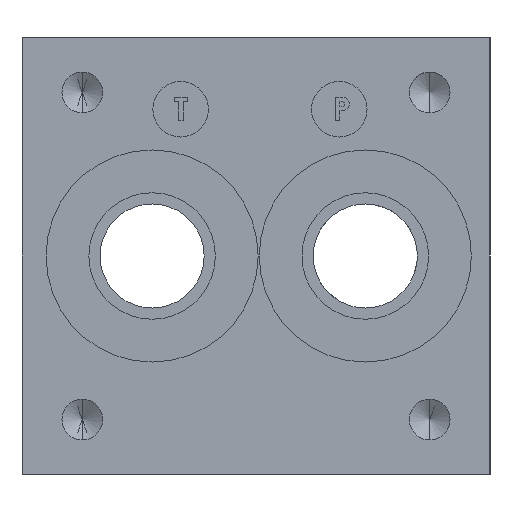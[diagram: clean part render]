
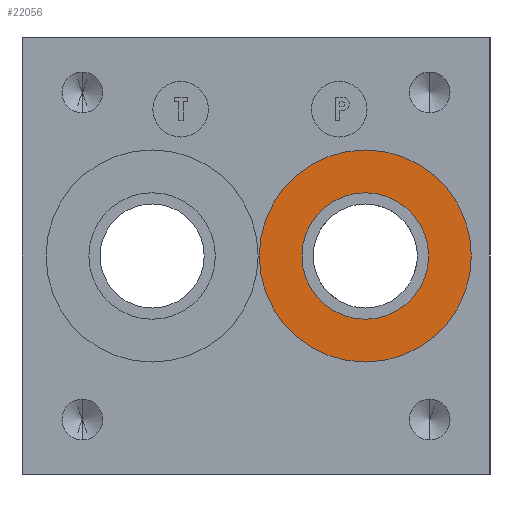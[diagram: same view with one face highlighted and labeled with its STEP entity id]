
A CAD part, left-side view. The second image highlights one B-rep face of the part: STEP entity #22056.
In plain terms, the highlighted planar face has unit normal (-1, 0, 0).
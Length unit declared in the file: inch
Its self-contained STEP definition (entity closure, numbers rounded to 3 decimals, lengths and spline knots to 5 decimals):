
#589 = EDGE_LOOP ( 'NONE', ( #11216, #7075 ) ) ;
#911 = DIRECTION ( 'NONE',  ( 0., 0., -1. ) ) ;
#3374 = AXIS2_PLACEMENT_3D ( 'NONE', #25413, #12531, #27550 ) ;
#3543 = AXIS2_PLACEMENT_3D ( 'NONE', #9884, #24941, #12075 ) ;
#4451 = DIRECTION ( 'NONE',  ( -1., 0., 0. ) ) ;
#4581 = VERTEX_POINT ( 'NONE', #26075 ) ;
#5346 = CARTESIAN_POINT ( 'NONE',  ( 0.031, 0.786, 1.375 ) ) ;
#6751 = CIRCLE ( 'NONE', #21774, 0.39885 ) ;
#7075 = ORIENTED_EDGE ( 'NONE', *, *, #9149, .F. ) ;
#7964 = DIRECTION ( 'NONE',  ( -1., 0., 0. ) ) ;
#9149 = EDGE_CURVE ( 'NONE', #22772, #16334, #19122, .T. ) ;
#9269 = EDGE_CURVE ( 'NONE', #11333, #4581, #11375, .T. ) ;
#9884 = CARTESIAN_POINT ( 'NONE',  ( 0.031, 0.786, 1.375 ) ) ;
#10000 = PLANE ( 'NONE',  #28024 ) ;
#11216 = ORIENTED_EDGE ( 'NONE', *, *, #26681, .F. ) ;
#11282 = EDGE_LOOP ( 'NONE', ( #16305, #13305 ) ) ;
#11333 = VERTEX_POINT ( 'NONE', #25982 ) ;
#11375 = CIRCLE ( 'NONE', #3374, 0.6684 ) ;
#12075 = DIRECTION ( 'NONE',  ( 0., 0., 1. ) ) ;
#12531 = DIRECTION ( 'NONE',  ( -1., 0., 0. ) ) ;
#12992 = CIRCLE ( 'NONE', #24749, 0.6684 ) ;
#13305 = ORIENTED_EDGE ( 'NONE', *, *, #9269, .T. ) ;
#14338 = DIRECTION ( 'NONE',  ( 1., 0., 0. ) ) ;
#15857 = CARTESIAN_POINT ( 'NONE',  ( 0.031, 0.786, 0.97615 ) ) ;
#16305 = ORIENTED_EDGE ( 'NONE', *, *, #26895, .T. ) ;
#16334 = VERTEX_POINT ( 'NONE', #20403 ) ;
#17611 = CARTESIAN_POINT ( 'NONE',  ( 0.031, 0.786, 1.375 ) ) ;
#18280 = FACE_OUTER_BOUND ( 'NONE', #11282, .T. ) ;
#19122 = CIRCLE ( 'NONE', #3543, 0.39885 ) ;
#19790 = DIRECTION ( 'NONE',  ( 0., 0., 1. ) ) ;
#20403 = CARTESIAN_POINT ( 'NONE',  ( 0.031, 0.786, 1.77385 ) ) ;
#20995 = CARTESIAN_POINT ( 'NONE',  ( 0.031, 0.786, 1.375 ) ) ;
#21774 = AXIS2_PLACEMENT_3D ( 'NONE', #17611, #4451, #19790 ) ;
#22056 = ADVANCED_FACE ( 'NONE', ( #27683, #18280 ), #10000, .F. ) ;
#22772 = VERTEX_POINT ( 'NONE', #15857 ) ;
#23166 = DIRECTION ( 'NONE',  ( 0., 0., 1. ) ) ;
#24749 = AXIS2_PLACEMENT_3D ( 'NONE', #20995, #7964, #23166 ) ;
#24941 = DIRECTION ( 'NONE',  ( -1., 0., 0. ) ) ;
#25413 = CARTESIAN_POINT ( 'NONE',  ( 0.031, 0.786, 1.375 ) ) ;
#25982 = CARTESIAN_POINT ( 'NONE',  ( 0.031, 0.786, 0.7066 ) ) ;
#26075 = CARTESIAN_POINT ( 'NONE',  ( 0.031, 0.786, 2.0434 ) ) ;
#26681 = EDGE_CURVE ( 'NONE', #16334, #22772, #6751, .T. ) ;
#26895 = EDGE_CURVE ( 'NONE', #4581, #11333, #12992, .T. ) ;
#27550 = DIRECTION ( 'NONE',  ( 0., 0., 1. ) ) ;
#27683 = FACE_BOUND ( 'NONE', #589, .T. ) ;
#28024 = AXIS2_PLACEMENT_3D ( 'NONE', #5346, #14338, #911 ) ;
